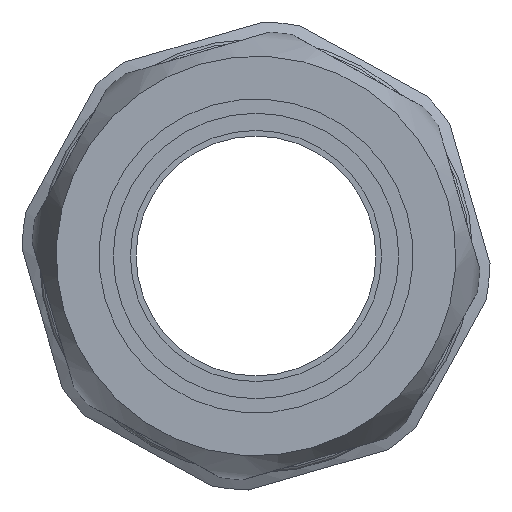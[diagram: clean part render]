
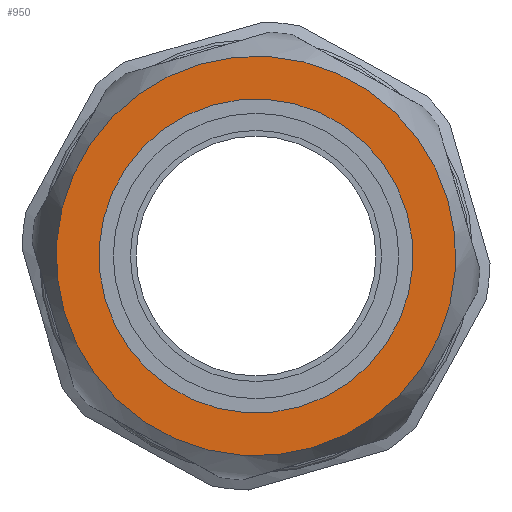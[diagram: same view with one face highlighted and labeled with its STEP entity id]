
A CAD part, left-side view. The second image highlights one B-rep face of the part: STEP entity #950.
In plain terms, the highlighted planar face has unit normal (-1, 0, 0) as drawn and (1, 0, 0) by its records, which use the part's own axes.
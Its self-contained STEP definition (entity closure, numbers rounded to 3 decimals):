
#187=FACE_BOUND('',#354,.T.);
#252=FACE_OUTER_BOUND('',#353,.T.);
#353=EDGE_LOOP('',(#856,#857));
#354=EDGE_LOOP('',(#858));
#413=CIRCLE('',#1074,17.5);
#414=CIRCLE('',#1075,17.5);
#415=CIRCLE('',#1077,13.75);
#505=VERTEX_POINT('',#2176);
#506=VERTEX_POINT('',#2177);
#507=VERTEX_POINT('',#2187);
#621=EDGE_CURVE('',#505,#506,#413,.T.);
#622=EDGE_CURVE('',#506,#505,#414,.T.);
#625=EDGE_CURVE('',#507,#507,#415,.T.);
#856=ORIENTED_EDGE('',*,*,#621,.T.);
#857=ORIENTED_EDGE('',*,*,#622,.T.);
#858=ORIENTED_EDGE('',*,*,#625,.F.);
#886=PLANE('',#1076);
#950=ADVANCED_FACE('',(#252,#187),#886,.T.);
#1074=AXIS2_PLACEMENT_3D('',#2178,#1337,#1338);
#1075=AXIS2_PLACEMENT_3D('',#2179,#1339,#1340);
#1076=AXIS2_PLACEMENT_3D('',#2186,#1341,#1342);
#1077=AXIS2_PLACEMENT_3D('',#2188,#1343,#1344);
#1337=DIRECTION('center_axis',(1.,0.,0.));
#1338=DIRECTION('ref_axis',(0.,1.,0.));
#1339=DIRECTION('center_axis',(1.,0.,0.));
#1340=DIRECTION('ref_axis',(0.,1.,0.));
#1341=DIRECTION('center_axis',(1.,0.,0.));
#1342=DIRECTION('ref_axis',(0.,0.,-1.));
#1343=DIRECTION('center_axis',(1.,0.,0.));
#1344=DIRECTION('ref_axis',(0.,1.,0.));
#2176=CARTESIAN_POINT('',(16.5,17.5,0.));
#2177=CARTESIAN_POINT('',(16.5,0.,17.5));
#2178=CARTESIAN_POINT('Origin',(16.5,0.,0.));
#2179=CARTESIAN_POINT('Origin',(16.5,0.,0.));
#2186=CARTESIAN_POINT('Origin',(16.5,15.625,0.));
#2187=CARTESIAN_POINT('',(16.5,13.75,0.));
#2188=CARTESIAN_POINT('Origin',(16.5,0.,0.));
